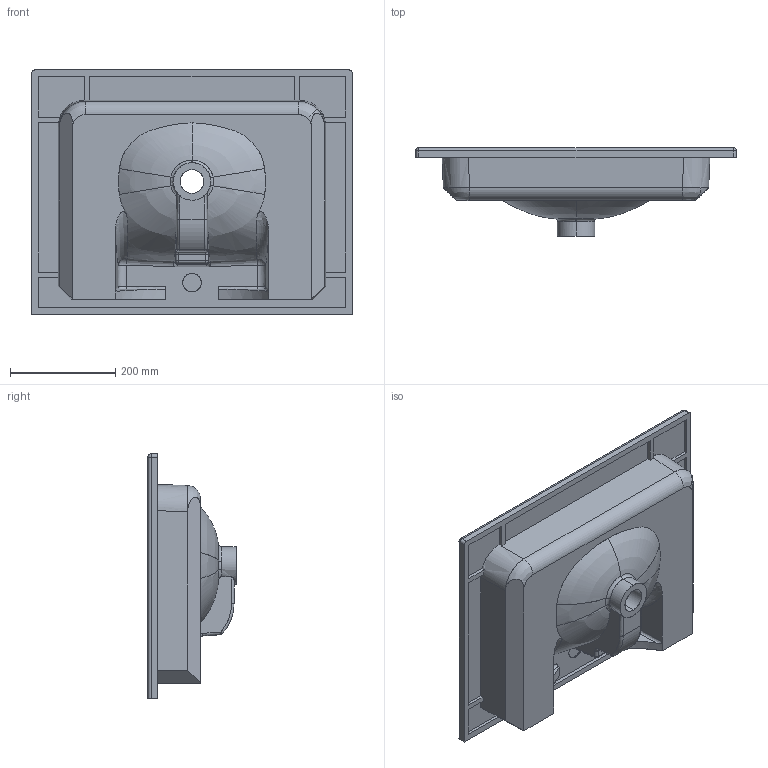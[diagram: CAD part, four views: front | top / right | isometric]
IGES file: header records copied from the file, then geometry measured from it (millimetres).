
Start section: SolidWorks IGES file using NURBS representation for surfaces
Global section: file name: C:\Users\User\Desktop\Soft\lavabi definitivi soft 46 m\soft 610 x 465\definitivo soft 610 x 465.IGS; native system: SolidWorks 2016; preprocessor: SolidWorks 2016; author: User; date: 200804.165859; units: millimetre
Bounding box: 610 x 168 x 465 mm (x, y, z)
Surface area: 839434.1 mm2 (no closed solid volume)
Topology: 0 solids, 0 shells, 147 faces, 2187 edges, 2179 vertices
Faces by surface type: bspline 147
